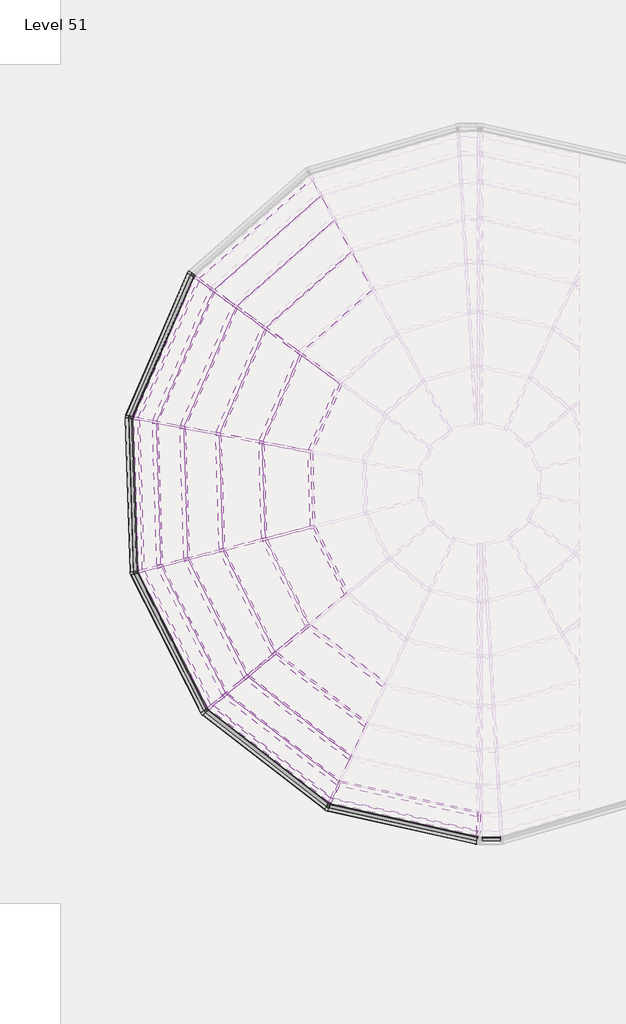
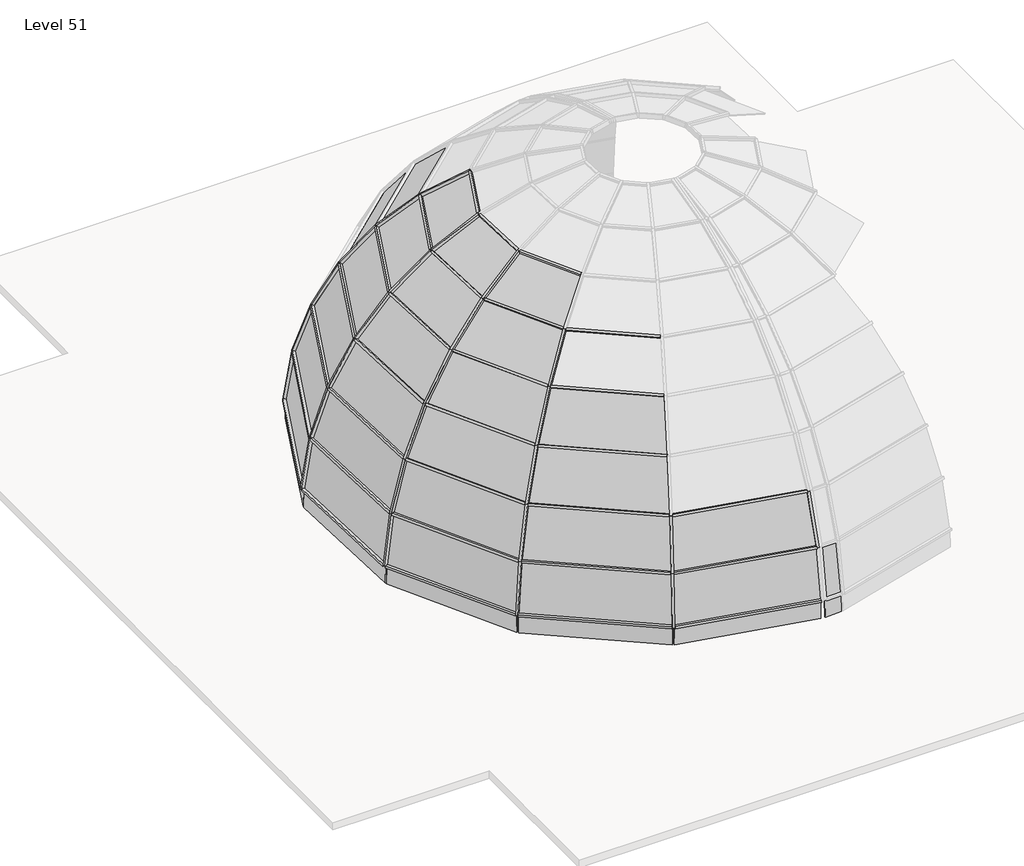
# One storey, part 1 of 5: 56 members, 35 plates.
"""IFC4 building model written with IfcOpenShell, lengths in millimetres."""

from ifc_helpers import new_model, si_unit, origin, place, context, project, spatial, transform, mapped, element, save
from components import member_d183bd50, member_19265363, member_bab2e2f0, member_1e4e3dac, member_4ad3c4be, member_f539bf5b, member_d9f9b3f1, member_bd7755a3, member_d21742c5, member_01029f2d, member_1612663b, member_5eaec6db, member_1ac3cc72, system_panel_glazed_0b4b9341, system_panel_glazed_891999a5, system_panel_glazed_cbcbf4f6, system_panel_glazed_e82b84bd, system_panel_glazed_248316cd, system_panel_glazed_11359935, system_panel_glazed_d27af8dd, system_panel_glazed_44e6ebe2, system_panel_glazed_fd8bc869, system_panel_glazed_955ccf0d, system_panel_glazed_4a3a9a20, system_panel_glazed_d1219a01

model = new_model("IFC4")

# Units and contexts
model_context = context("Model", 3, world=origin())
ifc_project = project(units=[si_unit("LENGTHUNIT", "METRE", prefix="MILLI")], contexts=[model_context])

# Site, building, storey
site = spatial("IfcSite", under=ifc_project)
building = spatial("IfcBuilding", under=site)
storey = spatial("IfcBuildingStorey", under=building, Name="Level 51", Elevation=152400.0)

# Members
placement = place(None, origin())
member_shape = member_d183bd50(model_context)
element("IfcMember", 1, ObjectType="Rectangular Mullion : 2.5\" x 5\" rectangular", at=placement, inside=storey, context=model_context, shape_type="MappedRepresentation", body=[
    mapped(member_shape, transform((-5304.9735037, -8481.2684402, 153025.5719668), x_axis=(-0.06246696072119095, -0.0317984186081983, -0.9975403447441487), y_axis=(-0.8889880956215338, -0.4525338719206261, 0.0700946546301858), z_axis=(-0.4536496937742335, 0.8911800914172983, 0.0))),
])
element("IfcMember", 2, ObjectType="Rectangular Mullion : 2.5\" x 5\" rectangular", at=placement, inside=storey, context=model_context, shape_type="MappedRepresentation", body=[
    mapped(member_shape, transform((-5441.325181, -4505.1878889, 153025.5719668), x_axis=(-0.07006123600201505, -0.002164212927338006, -0.9975403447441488), y_axis=(-0.9970647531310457, -0.030799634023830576, 0.07009465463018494), z_axis=(-0.0308755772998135, 0.9995232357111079, 0.0))),
])
element("IfcMember", 3, ObjectType="Rectangular Mullion : 2.5\" x 5\" rectangular", at=placement, inside=storey, context=model_context, shape_type="MappedRepresentation", body=[
    mapped(member_shape, transform((-3871.2078611, -849.7070817, 153025.5719668), x_axis=(-0.06431051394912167, 0.027882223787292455, -0.9975403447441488), y_axis=(-0.915224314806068, 0.39680120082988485, 0.0700946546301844), z_axis=(0.3977796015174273, 0.9174810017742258, 0.0))),
])
element("IfcMember", 4, ObjectType="Rectangular Mullion : 2.5\" x 5\" rectangular", at=placement, inside=storey, context=model_context, shape_type="MappedRepresentation", body=[
    mapped(member_shape, transform((-3488.1245773, -12020.6000592, 153025.5719668), x_axis=(-0.04297421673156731, -0.055375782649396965, -0.9975403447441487), y_axis=(-0.6115803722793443, -0.7880711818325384, 0.07009465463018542), z_axis=(-0.7900143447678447, 0.6130883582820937, 0.0))),
])
member_2_shape = member_19265363(model_context)
element("IfcMember", 5, ObjectType="Rectangular Mullion : 2.5\" x 5\" rectangular", at=placement, inside=storey, context=model_context, shape_type="MappedRepresentation", body=[
    mapped(member_2_shape, transform((-238.6274777, -14240.3846278, 154532.0243606), x_axis=(-0.052065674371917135, -0.232844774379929, -0.9711191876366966), y_axis=(-0.21191558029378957, -0.9477152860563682, 0.2385948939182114), z_axis=(-0.9759000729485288, 0.21821789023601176, 0.0))),
])
member_3_shape = member_bab2e2f0(model_context)
element("IfcMember", 6, ObjectType="Rectangular Mullion : 2.5\" x 5\" rectangular", at=placement, inside=storey, context=model_context, shape_type="MappedRepresentation", body=[
    mapped(member_3_shape, transform((-3310.3978785, -11873.663318, 154532.0243606), x_axis=(-0.14627975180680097, -0.188493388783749, -0.9711191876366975), y_axis=(-0.5953818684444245, -0.7671980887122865, 0.23859489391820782), z_axis=(-0.7900143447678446, 0.613088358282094, 0.0))),
])
element("IfcMember", 7, ObjectType="Rectangular Mullion : 2.5\" x 5\" rectangular", at=placement, inside=storey, context=model_context, shape_type="MappedRepresentation", body=[
    mapped(member_3_shape, transform((-5081.590197, -8424.0226229, 154532.0243606), x_axis=(-0.2126310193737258, -0.10823850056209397, -0.9711191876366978), y_axis=(-0.8654420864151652, -0.44054792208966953, 0.23859489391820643), z_axis=(-0.45364969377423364, 0.8911800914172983, 0.0))),
])
element("IfcMember", 8, ObjectType="Rectangular Mullion : 2.5\" x 5\" rectangular", at=placement, inside=storey, context=model_context, shape_type="MappedRepresentation", body=[
    mapped(member_3_shape, transform((-5214.8344675, -4548.5369607, 154532.0243606), x_axis=(-0.23848114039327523, -0.007366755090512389, -0.9711191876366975), y_axis=(-0.9706561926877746, -0.029983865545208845, 0.23859489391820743), z_axis=(-0.030875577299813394, 0.999523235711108, 0.0))),
])
element("IfcMember", 9, ObjectType="Rectangular Mullion : 2.5\" x 5\" rectangular", at=placement, inside=storey, context=model_context, shape_type="MappedRepresentation", body=[
    mapped(member_3_shape, transform((-3684.7508291, -985.3940765, 154532.0243606), x_axis=(-0.21890628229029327, 0.09490818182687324, -0.9711191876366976), y_axis=(-0.890983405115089, 0.3862914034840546, 0.2385948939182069), z_axis=(0.39777960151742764, 0.9174810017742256, 0.0))),
])
member_4_shape = member_1e4e3dac(model_context)
element("IfcMember", 10, ObjectType="Rectangular Mullion : 2.5\" x 5\" rectangular", at=placement, inside=storey, context=model_context, shape_type="MappedRepresentation", body=[
    mapped(member_4_shape, transform((-336.8448638, -14449.0243421, 153025.5719668), x_axis=(-0.015295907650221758, -0.06840537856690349, -0.9975403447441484), y_axis=(-0.2176811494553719, -0.9734996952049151, 0.07009465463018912), z_axis=(-0.9759000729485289, 0.21821789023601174, 0.0))),
])
member_5_shape = member_4ad3c4be(model_context)
element("IfcMember", 11, ObjectType="Rectangular Mullion : 2.5\" x 5\" rectangular", at=placement, inside=storey, context=model_context, shape_type="MappedRepresentation", body=[
    mapped(member_5_shape, transform((-2723.4172484, -1684.9679308, 157327.0596321), x_axis=(-0.5029371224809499, 0.21805152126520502, -0.8363658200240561), y_axis=(-0.7673497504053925, 0.3326892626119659, 0.5481717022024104), z_axis=(0.39777960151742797, 0.9174810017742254, 0.0))),
])
element("IfcMember", 12, ObjectType="Rectangular Mullion : 2.5\" x 5\" rectangular", at=placement, inside=storey, context=model_context, shape_type="MappedRepresentation", body=[
    mapped(member_5_shape, transform((-4047.0955719, -4772.0357364, 157327.0596321), x_axis=(-0.5479103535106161, -0.016925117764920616, -0.8363658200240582), y_axis=(-0.8359670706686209, -0.025823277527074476, 0.5481717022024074), z_axis=(-0.030875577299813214, 0.999523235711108, 0.0))),
])
element("IfcMember", 13, ObjectType="Rectangular Mullion : 2.5\" x 5\" rectangular", at=placement, inside=storey, context=model_context, shape_type="MappedRepresentation", body=[
    mapped(member_5_shape, transform((-2394.0760761, -11116.0881168, 157327.0596321), x_axis=(-0.33607768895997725, -0.433063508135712, -0.8363658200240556), y_axis=(-0.5127661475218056, -0.6607409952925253, 0.5481717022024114), z_axis=(-0.7900143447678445, 0.613088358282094, 0.0))),
])
element("IfcMember", 14, ObjectType="Rectangular Mullion : 2.5\" x 5\" rectangular", at=placement, inside=storey, context=model_context, shape_type="MappedRepresentation", body=[
    mapped(member_5_shape, transform((-3929.8724428, -8128.8751246, 157327.0596321), x_axis=(-0.4885197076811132, -0.2486779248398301, -0.8363658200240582), y_axis=(-0.7453525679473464, -0.37941709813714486, 0.5481717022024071), z_axis=(-0.45364969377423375, 0.8911800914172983, 0.0))),
])
member_6_shape = member_f539bf5b(model_context)
element("IfcMember", 15, ObjectType="Rectangular Mullion : 2.5\" x 5\" rectangular", at=placement, inside=storey, context=model_context, shape_type="MappedRepresentation", body=[
    mapped(member_6_shape, transform((-35.2087204, -13808.2693672, 155979.2538554), x_axis=(-0.08719349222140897, -0.38994115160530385, -0.9167023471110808), y_axis=(-0.2000408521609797, -0.8946098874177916, 0.3995707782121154), z_axis=(-0.975900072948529, 0.2182178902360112, 0.0))),
])
member_7_shape = member_d9f9b3f1(model_context)
element("IfcMember", 16, ObjectType="Rectangular Mullion : 2.5\" x 5\" rectangular", at=placement, inside=storey, context=model_context, shape_type="MappedRepresentation", body=[
    mapped(member_7_shape, transform((-2942.306794, -11569.341543, 155979.2538554), x_axis=(-0.2449721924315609, -0.3156666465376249, -0.9167023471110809), y_axis=(-0.5620195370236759, -0.724208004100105, 0.3995707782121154), z_axis=(-0.7900143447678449, 0.6130883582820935, 0.0))),
])
element("IfcMember", 17, ObjectType="Rectangular Mullion : 2.5\" x 5\" rectangular", at=placement, inside=storey, context=model_context, shape_type="MappedRepresentation", body=[
    mapped(member_7_shape, transform((-4618.9393727, -8305.4603859, 155979.2538554), x_axis=(-0.3560895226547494, -0.18126516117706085, -0.9167023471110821), y_axis=(-0.8169468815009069, -0.41586173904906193, 0.39957077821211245), z_axis=(-0.4536496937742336, 0.8911800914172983, 0.0))),
])
element("IfcMember", 18, ObjectType="Rectangular Mullion : 2.5\" x 5\" rectangular", at=placement, inside=storey, context=model_context, shape_type="MappedRepresentation", body=[
    mapped(member_7_shape, transform((-4745.74787, -4638.3175449, 155979.2538554), x_axis=(-0.3993802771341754, -0.012336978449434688, -0.9167023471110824), y_axis=(-0.9162652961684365, -0.028303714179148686, 0.39957077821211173), z_axis=(-0.03087557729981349, 0.9995232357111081, 0.0))),
])
element("IfcMember", 19, ObjectType="Rectangular Mullion : 2.5\" x 5\" rectangular", at=placement, inside=storey, context=model_context, shape_type="MappedRepresentation", body=[
    mapped(member_7_shape, transform((-3298.5782865, -1266.4164182, 155979.2538554), x_axis=(-0.36659859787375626, 0.1589411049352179, -0.9167023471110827), y_axis=(-0.8410569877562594, 0.36464549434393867, 0.39957077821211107), z_axis=(0.3977796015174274, 0.9174810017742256, 0.0))),
])
member_8_shape = member_bd7755a3(model_context)
element("IfcMember", 20, ObjectType="Rectangular Mullion : 2.5\" x 5\" rectangular", at=placement, inside=storey, context=model_context, shape_type="MappedRepresentation", body=[
    mapped(member_8_shape, transform((-1074.8423509, -2884.6554463, 159578.4455769), x_axis=(-0.726935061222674, 0.31516722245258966, -0.6101106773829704), y_axis=(-0.559764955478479, 0.24268958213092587, 0.7923162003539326), z_axis=(0.3977796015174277, 0.9174810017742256, 0.0))),
])
element("IfcMember", 21, ObjectType="Rectangular Mullion : 2.5\" x 5\" rectangular", at=placement, inside=storey, context=model_context, shape_type="MappedRepresentation", body=[
    mapped(member_8_shape, transform((-2044.5596482, -5155.310053, 159578.4455769), x_axis=(-0.7919384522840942, -0.024463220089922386, -0.6101106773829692), y_axis=(-0.6098197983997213, -0.018837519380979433, 0.7923162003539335), z_axis=(-0.030875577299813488, 0.999523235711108, 0.0))),
])
element("IfcMember", 22, ObjectType="Rectangular Mullion : 2.5\" x 5\" rectangular", at=placement, inside=storey, context=model_context, shape_type="MappedRepresentation", body=[
    mapped(member_8_shape, transform((-1954.8109068, -7622.7316105, 159578.4455769), x_axis=(-0.7060964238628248, -0.3594340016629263, -0.6101106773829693), y_axis=(-0.5437184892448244, -0.2767765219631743, 0.7923162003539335), z_axis=(-0.45364969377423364, 0.8911800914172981, 0.0))),
])
element("IfcMember", 23, ObjectType="Rectangular Mullion : 2.5\" x 5\" rectangular", at=placement, inside=storey, context=model_context, shape_type="MappedRepresentation", body=[
    mapped(member_8_shape, transform((-822.6911253, -9816.9350604, 159578.4455769), x_axis=(-0.48575983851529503, -0.6259411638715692, -0.6101106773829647), y_axis=(-0.3740517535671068, -0.4819961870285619, 0.792316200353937), z_axis=(-0.7900143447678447, 0.6130883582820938, 0.0))),
])
member_9_shape = member_d21742c5(model_context)
element("IfcMember", 24, ObjectType="Rectangular Mullion : 2.5\" x 5\" rectangular", at=placement, inside=storey, context=model_context, shape_type="MappedRepresentation", body=[
    mapped(member_9_shape, transform((-47.2222387, -3632.4667961, 160419.4872466), x_axis=(-0.809110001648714, 0.35079467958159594, -0.47147014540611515), y_axis=(-0.4325649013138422, 0.18754120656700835, 0.8818820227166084), z_axis=(0.397779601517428, 0.9174810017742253, 0.0))),
])
element("IfcMember", 25, ObjectType="Rectangular Mullion : 2.5\" x 5\" rectangular", at=placement, inside=storey, context=model_context, shape_type="MappedRepresentation", body=[
    mapped(member_9_shape, transform((-796.3020205, -5394.2196693, 160419.4872466), x_axis=(-0.8814615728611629, -0.02722861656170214, -0.47147014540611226), y_axis=(-0.471245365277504, -0.014556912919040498, 0.8818820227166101), z_axis=(-0.03087557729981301, 0.9995232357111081, 0.0))),
])
element("IfcMember", 26, ObjectType="Rectangular Mullion : 2.5\" x 5\" rectangular", at=placement, inside=storey, context=model_context, shape_type="MappedRepresentation", body=[
    mapped(member_9_shape, transform((-723.6791213, -7307.2328998, 160419.4872466), x_axis=(-0.7859157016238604, -0.4000655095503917, -0.4714701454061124), y_axis=(-0.42016480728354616, -0.21388228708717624, 0.88188202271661), z_axis=(-0.45364969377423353, 0.8911800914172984, 0.0))),
])
member_10_shape = member_01029f2d(model_context)
element("IfcMember", 27, ObjectType="Rectangular Mullion : 2.5\" x 5\" rectangular", at=placement, inside=storey, context=model_context, shape_type="MappedRepresentation", body=[
    mapped(member_10_shape, transform((-1975.2444102, -2229.4221832, 158538.0026411), x_axis=(-0.6240863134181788, 0.27057650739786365, -0.7330106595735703), y_axis=(-0.6725233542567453, 0.29157668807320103, 0.6802171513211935), z_axis=(0.3977796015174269, 0.9174810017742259, 0.0))),
])
element("IfcMember", 28, ObjectType="Rectangular Mullion : 2.5\" x 5\" rectangular", at=placement, inside=storey, context=model_context, shape_type="MappedRepresentation", body=[
    mapped(member_10_shape, transform((-1680.9343558, -10526.4934124, 158538.0026411), x_axis=(-0.41703321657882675, -0.5373813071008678, -0.7330106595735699), y_axis=(-0.44940030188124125, -0.5790889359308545, 0.6802171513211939), z_axis=(-0.7900143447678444, 0.6130883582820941, 0.0))),
])
element("IfcMember", 29, ObjectType="Rectangular Mullion : 2.5\" x 5\" rectangular", at=placement, inside=storey, context=model_context, shape_type="MappedRepresentation", body=[
    mapped(member_10_shape, transform((-3033.5301552, -7899.1719852, 158538.0026411), x_axis=(-0.6061959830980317, -0.3085803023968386, -0.7330106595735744), y_axis=(-0.6532445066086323, -0.33253006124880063, 0.6802171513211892), z_axis=(-0.45364969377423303, 0.8911800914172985, 0.0))),
])
element("IfcMember", 30, ObjectType="Rectangular Mullion : 2.5\" x 5\" rectangular", at=placement, inside=storey, context=model_context, shape_type="MappedRepresentation", body=[
    mapped(member_10_shape, transform((-3138.2845813, -4945.977141, 158538.0026411), x_axis=(-0.6798928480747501, -0.021002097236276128, -0.7330106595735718), y_axis=(-0.73266118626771, -0.022632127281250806, 0.680217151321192), z_axis=(-0.030875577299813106, 0.9995232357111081, 0.0))),
])
member_11_shape = member_1612663b(model_context)
element("IfcMember", 31, ObjectType="Rectangular Mullion : 2.5\" x 5\" rectangular", at=placement, inside=storey, context=model_context, shape_type="MappedRepresentation", body=[
    mapped(member_11_shape, transform((-847.7740807, -9797.4695051, 159578.4455769), x_axis=(-0.6371882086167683, 0.7707082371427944, 0.0), y_axis=(-0.526166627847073, -0.4350117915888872, 0.730693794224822), z_axis=(0.5631517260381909, 0.4655894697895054, 0.6827053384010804))),
])
element("IfcMember", 32, ObjectType="Rectangular Mullion : 2.5\" x 5\" rectangular", at=placement, inside=storey, context=model_context, shape_type="MappedRepresentation", body=[
    mapped(member_11_shape, transform((-1706.0173112, -10507.027857, 158538.0026411), x_axis=(-0.6371882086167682, 0.7707082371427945, 0.0), y_axis=(-0.6123909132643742, -0.5062982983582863, 0.6071568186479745), z_axis=(0.46794076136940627, 0.38687316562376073, 0.7945820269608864))),
])
element("IfcMember", 33, ObjectType="Rectangular Mullion : 2.5\" x 5\" rectangular", at=placement, inside=storey, context=model_context, shape_type="MappedRepresentation", body=[
    mapped(member_11_shape, transform((-2419.1590315, -11096.6225614, 157327.0596321), x_axis=(-0.6371882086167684, 0.7707082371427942, 0.0), y_axis=(-0.6816043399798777, -0.5635209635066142, 0.466754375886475), z_axis=(0.35973144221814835, 0.29741038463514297, 0.8843869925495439))),
])
element("IfcMember", 34, ObjectType="Rectangular Mullion : 2.5\" x 5\" rectangular", at=placement, inside=storey, context=model_context, shape_type="MappedRepresentation", body=[
    mapped(member_11_shape, transform((-2967.3897495, -11549.8759876, 155979.2538554), x_axis=(-0.6371882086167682, 0.7707082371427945, 0.0), y_axis=(-0.7318843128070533, -0.6050902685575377, 0.31338653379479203), z_axis=(0.24152958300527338, 0.19968620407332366, 0.9496256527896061))),
])
element("IfcMember", 35, ObjectType="Rectangular Mullion : 2.5\" x 5\" rectangular", at=placement, inside=storey, context=model_context, shape_type="MappedRepresentation", body=[
    mapped(member_11_shape, transform((-738.0824991, -7278.9379319, 160419.4872466), x_axis=(-0.24824532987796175, 0.9686971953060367, 0.0), y_axis=(-0.5345897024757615, -0.13699781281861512, 0.8339337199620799), z_axis=(0.8078292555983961, 0.2070201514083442, 0.5518646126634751))),
])
element("IfcMember", 36, ObjectType="Rectangular Mullion : 2.5\" x 5\" rectangular", at=placement, inside=storey, context=model_context, shape_type="MappedRepresentation", body=[
    mapped(member_11_shape, transform((-1969.2142846, -7594.4366426, 159578.4455769), x_axis=(-0.248245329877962, 0.9686971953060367, 0.0), y_axis=(-0.6613347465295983, -0.16947841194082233, 0.73069379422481), z_axis=(0.707821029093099, 0.18139132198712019, 0.6827053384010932))),
])
element("IfcMember", 37, ObjectType="Rectangular Mullion : 2.5\" x 5\" rectangular", at=placement, inside=storey, context=model_context, shape_type="MappedRepresentation", body=[
    mapped(member_11_shape, transform((-3047.933533, -7870.8770173, 158538.0026411), x_axis=(-0.24824532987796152, 0.9686971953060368, 0.0), y_axis=(-0.7697093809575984, -0.1972512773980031, 0.6071568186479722), z_axis=(0.5881511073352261, 0.150723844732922, 0.7945820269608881))),
])
element("IfcMember", 38, ObjectType="Rectangular Mullion : 2.5\" x 5\" rectangular", at=placement, inside=storey, context=model_context, shape_type="MappedRepresentation", body=[
    mapped(member_11_shape, transform((-3944.2758205, -8100.5801567, 157327.0596321), x_axis=(-0.24824532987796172, 0.9686971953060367, 0.0), y_axis=(-0.8567031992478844, -0.2195449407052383, 0.46675437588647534), z_axis=(0.45214365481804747, 0.1158695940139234, 0.8843869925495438))),
])
element("IfcMember", 39, ObjectType="Rectangular Mullion : 2.5\" x 5\" rectangular", at=placement, inside=storey, context=model_context, shape_type="MappedRepresentation", body=[
    mapped(member_11_shape, transform((-4633.3427505, -8277.165418, 155979.2538554), x_axis=(-0.24824532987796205, 0.9686971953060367, 0.0), y_axis=(-0.9198997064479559, -0.23574013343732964, 0.3133865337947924), z_axis=(0.303576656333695, 0.07779674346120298, 0.9496256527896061))),
])
element("IfcMember", 40, ObjectType="Rectangular Mullion : 2.5\" x 5\" rectangular", at=placement, inside=storey, context=model_context, shape_type="MappedRepresentation", body=[
    mapped(member_11_shape, transform((-797.2823201, -5362.4848066, 160419.4872466), x_axis=(0.1879823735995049, 0.9821724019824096, 0.0), y_axis=(-0.5420261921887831, 0.10374081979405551, 0.8339337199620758), z_axis=(0.8190666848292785, -0.1567648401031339, 0.5518646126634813))),
])
element("IfcMember", 41, ObjectType="Rectangular Mullion : 2.5\" x 5\" rectangular", at=placement, inside=storey, context=model_context, shape_type="MappedRepresentation", body=[
    mapped(member_11_shape, transform((-2045.5399477, -5123.5751902, 159578.4455769), x_axis=(0.18798237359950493, 0.9821724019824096, 0.0), y_axis=(-0.6705343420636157, 0.12833656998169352, 0.7306937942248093), z_axis=(0.717667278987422, -0.13735755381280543, 0.6827053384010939))),
])
element("IfcMember", 42, ObjectType="Rectangular Mullion : 2.5\" x 5\" rectangular", at=placement, inside=storey, context=model_context, shape_type="MappedRepresentation", body=[
    mapped(member_11_shape, transform((-3139.2648809, -4914.2422782, 158538.0026411), x_axis=(0.18798237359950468, 0.9821724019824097, 0.0), y_axis=(-0.7804165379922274, 0.1493674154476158, 0.6071568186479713), z_axis=(0.596332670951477, -0.11413477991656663, 0.7945820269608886))),
])
element("IfcMember", 43, ObjectType="Rectangular Mullion : 2.5\" x 5\" rectangular", at=placement, inside=storey, context=model_context, shape_type="MappedRepresentation", body=[
    mapped(member_11_shape, transform((-4048.0758714, -4740.3008736, 157327.0596321), x_axis=(0.187982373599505, 0.9821724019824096, 0.0), y_axis=(-0.868620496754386, 0.1662491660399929, 0.4667543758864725), z_axis=(0.4584332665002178, -0.08774159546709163, 0.8843869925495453))),
])
element("IfcMember", 44, ObjectType="Rectangular Mullion : 2.5\" x 5\" rectangular", at=placement, inside=storey, context=model_context, shape_type="MappedRepresentation", body=[
    mapped(member_11_shape, transform((-4746.7281696, -4606.5826821, 155979.2538554), x_axis=(0.18798237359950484, 0.9821724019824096, 0.0), y_axis=(-0.9326961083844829, 0.17851288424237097, 0.31338653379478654), z_axis=(0.3077996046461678, -0.058911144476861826, 0.949625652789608))),
])
element("IfcMember", 45, ObjectType="Rectangular Mullion : 2.5\" x 5\" rectangular", at=placement, inside=storey, context=model_context, shape_type="MappedRepresentation", body=[
    mapped(member_11_shape, transform((-66.1935478, -13801.3409492, 155979.2538554), x_axis=(-0.9047619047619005, 0.4259177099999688, 0.0), y_axis=(-0.4044623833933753, -0.859185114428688, 0.3133865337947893), z_axis=(0.13347687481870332, 0.28354019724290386, 0.9496256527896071))),
])
element("IfcMember", 46, ObjectType="Rectangular Mullion : 2.5\" x 5\" rectangular", at=placement, inside=storey, context=model_context, shape_type="MappedRepresentation", body=[
    mapped(member_11_shape, transform((-34.5927364, -3603.3367743, 160419.4872466), x_axis=(0.5884039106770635, 0.8085671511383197, 0.0), y_axis=(-0.44621959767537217, 0.3247192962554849, 0.8339337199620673), z_axis=(0.674291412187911, -0.4906898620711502, 0.5518646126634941))),
])
element("IfcMember", 47, ObjectType="Rectangular Mullion : 2.5\" x 5\" rectangular", at=placement, inside=storey, context=model_context, shape_type="MappedRepresentation", body=[
    mapped(member_11_shape, transform((-1062.2128486, -2855.5254245, 159578.4455769), x_axis=(0.5884039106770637, 0.8085671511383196, 0.0), y_axis=(-0.5520131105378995, 0.40170649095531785, 0.7306937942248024), z_axis=(0.5908149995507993, -0.4299430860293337, 0.6827053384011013))),
])
element("IfcMember", 48, ObjectType="Rectangular Mullion : 2.5\" x 5\" rectangular", at=placement, inside=storey, context=model_context, shape_type="MappedRepresentation", body=[
    mapped(member_11_shape, transform((-1962.6149079, -2200.2921614, 158538.0026411), x_axis=(0.5884039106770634, 0.8085671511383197, 0.0), y_axis=(-0.6424729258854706, 0.4675351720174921, 0.6071568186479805), z_axis=(0.49092705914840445, -0.3572534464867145, 0.7945820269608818))),
])
element("IfcMember", 49, ObjectType="Rectangular Mullion : 2.5\" x 5\" rectangular", at=placement, inside=storey, context=model_context, shape_type="MappedRepresentation", body=[
    mapped(member_11_shape, transform((-2710.787746, -1655.837909, 157327.0596321), x_axis=(0.5884039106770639, 0.8085671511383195, 0.0), y_axis=(-0.7150862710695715, 0.5203767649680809, 0.46675437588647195), z_axis=(0.3774022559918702, -0.27464010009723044, 0.8843869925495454))),
])
element("IfcMember", 50, ObjectType="Rectangular Mullion : 2.5\" x 5\" rectangular", at=placement, inside=storey, context=model_context, shape_type="MappedRepresentation", body=[
    mapped(member_11_shape, transform((-3285.9487841, -1237.2863964, 155979.2538554), x_axis=(0.5884039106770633, 0.8085671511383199, 0.0), y_axis=(-0.7678361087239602, 0.5587634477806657, 0.3133865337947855), z_axis=(0.25339405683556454, -0.18439786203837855, 0.9496256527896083))),
])
member_12_shape = member_5eaec6db(model_context)
element("IfcMember", 51, ObjectType="Rectangular Mullion : 2.5\" x 5\" rectangular", at=placement, inside=storey, context=model_context, shape_type="MappedRepresentation", body=[
    mapped(member_12_shape, transform((-3335.480834, -11854.1977626, 154532.0243606), x_axis=(-0.6371882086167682, 0.7707082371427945, 0.0), y_axis=(-0.7618341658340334, -0.6298515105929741, 0.15131351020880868), z_axis=(0.11661856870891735, 0.09641518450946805, 0.9884858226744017))),
])
element("IfcMember", 52, ObjectType="Rectangular Mullion : 2.5\" x 5\" rectangular", at=placement, inside=storey, context=model_context, shape_type="MappedRepresentation", body=[
    mapped(member_12_shape, transform((-5095.9935747, -8395.727655, 154532.0243606), x_axis=(-0.24824532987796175, 0.9686971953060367, 0.0), y_axis=(-0.9575434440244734, -0.2453869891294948, 0.15131351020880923), z_axis=(0.14657697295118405, 0.037562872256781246, 0.9884858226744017))),
])
element("IfcMember", 53, ObjectType="Rectangular Mullion : 2.5\" x 5\" rectangular", at=placement, inside=storey, context=model_context, shape_type="MappedRepresentation", body=[
    mapped(member_12_shape, transform((-269.612305, -14233.4562098, 154532.0243606), x_axis=(-0.9047619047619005, 0.42591770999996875, 0.0), y_axis=(-0.42101361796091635, -0.8943443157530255, 0.15131351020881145), z_axis=(0.0644471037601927, 0.13690269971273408, 0.9884858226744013))),
])
element("IfcMember", 54, ObjectType="Rectangular Mullion : 2.5\" x 5\" rectangular", at=placement, inside=storey, context=model_context, shape_type="MappedRepresentation", body=[
    mapped(member_12_shape, transform((-5215.8147671, -4516.802098, 154532.0243606), x_axis=(0.18798237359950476, 0.9821724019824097, 0.0), y_axis=(-0.9708634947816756, 0.18581791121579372, 0.15131351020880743), z_axis=(0.14861595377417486, -0.028444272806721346, 0.9884858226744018))),
])
element("IfcMember", 55, ObjectType="Rectangular Mullion : 2.5\" x 5\" rectangular", at=placement, inside=storey, context=model_context, shape_type="MappedRepresentation", body=[
    mapped(member_12_shape, transform((-3672.1213268, -956.2640547, 154532.0243606), x_axis=(0.5884039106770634, 0.8085671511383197, 0.0), y_axis=(-0.7992571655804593, 0.5816289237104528, 0.1513135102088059), z_axis=(0.12234713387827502, -0.0890334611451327, 0.9884858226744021))),
])
member_13_shape = member_1ac3cc72(model_context)
element("IfcMember", 56, ObjectType="Rectangular Mullion : 2.5\" x 5\" rectangular", at=placement, inside=storey, context=model_context, shape_type="MappedRepresentation", body=[
    mapped(member_13_shape, transform((3517.6370544, -15080.3109113, 154532.0243606), x_axis=(0.9781901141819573, -0.19724824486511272, 0.06509401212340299), y_axis=(-0.2077115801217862, -0.9289144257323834, 0.3065516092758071), z_axis=(0.0, -0.31338653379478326, -0.9496256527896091))),
])

# Plates
system_panel_glazed_shape = system_panel_glazed_0b4b9341(model_context)
element("IfcPlate", 57, ObjectType="System Panel : Glazed", at=placement, inside=storey, context=model_context, shape_type="MappedRepresentation", body=[
    mapped(system_panel_glazed_shape, transform((-326.5944607, -8145.218736, 160401.668006), x_axis=(-0.45364969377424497, 0.8911800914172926, 0.0), y_axis=(0.5001622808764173, 0.25460450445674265, -0.8276558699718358), z_axis=(-0.7375904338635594, -0.37546583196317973, -0.5612359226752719))),
])
element("IfcPlate", 58, ObjectType="System Panel : Glazed", at=placement, inside=storey, context=model_context, shape_type="MappedRepresentation", body=[
    mapped(system_panel_glazed_shape, transform((-793.947955, -6321.5227199, 160401.668006), x_axis=(-0.030875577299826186, 0.9995232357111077, 0.0), y_axis=(0.5609683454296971, 0.017328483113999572, -0.8276558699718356), z_axis=(-0.8272612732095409, -0.025554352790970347, -0.5612359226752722))),
])
element("IfcPlate", 59, ObjectType="System Panel : Glazed", at=placement, inside=storey, context=model_context, shape_type="MappedRepresentation", body=[
    mapped(system_panel_glazed_shape, transform((-440.0471618, -4472.4579087, 160401.668006), x_axis=(0.39777960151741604, 0.9174810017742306, 0.0), y_axis=(0.5149232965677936, -0.22324820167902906, -0.8276558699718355), z_axis=(-0.759358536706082, 0.32922462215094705, -0.5612359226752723))),
])
system_panel_glazed_2_shape = system_panel_glazed_891999a5(model_context)
element("IfcPlate", 60, ObjectType="System Panel : Glazed", at=placement, inside=storey, context=model_context, shape_type="MappedRepresentation", body=[
    mapped(system_panel_glazed_2_shape, transform((-1428.9323626, -8706.3570025, 159556.4887654), x_axis=(-0.4536496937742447, 0.8911800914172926, 0.0), y_axis=(0.616298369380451, 0.31372285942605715, -0.7223256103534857), z_axis=(-0.6437222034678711, -0.3276827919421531, -0.6915531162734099))),
])
element("IfcPlate", 61, ObjectType="System Panel : Glazed", at=placement, inside=storey, context=model_context, shape_type="MappedRepresentation", body=[
    mapped(system_panel_glazed_2_shape, transform((-2030.3000203, -6359.7140119, 159556.4887654), x_axis=(-0.030875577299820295, 0.9995232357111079, 0.0), y_axis=(0.6912234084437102, 0.021352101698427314, -0.7223256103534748), z_axis=(-0.7219812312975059, -0.02230222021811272, -0.6915531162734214))),
])
element("IfcPlate", 62, ObjectType="System Panel : Glazed", at=placement, inside=storey, context=model_context, shape_type="MappedRepresentation", body=[
    mapped(system_panel_glazed_2_shape, transform((-1574.9177589, -3980.4276944, 159556.4887654), x_axis=(0.39777960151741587, 0.9174810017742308, 0.0), y_axis=(0.6344868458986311, -0.27508572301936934, -0.7223256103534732), z_axis=(-0.6627200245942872, 0.28732639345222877, -0.691553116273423))),
])
element("IfcPlate", 63, ObjectType="System Panel : Glazed", at=placement, inside=storey, context=model_context, shape_type="MappedRepresentation", body=[
    mapped(system_panel_glazed_2_shape, transform((-149.525057, -2021.6954437, 159556.4887654), x_axis=(0.7506672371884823, 0.6606804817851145, 0.0), y_axis=(0.4568956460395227, -0.5191262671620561, -0.7223256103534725), z_axis=(-0.4772264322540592, 0.5422261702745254, -0.6915531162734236))),
])
system_panel_glazed_3_shape = system_panel_glazed_cbcbf4f6(model_context)
element("IfcPlate", 64, ObjectType="System Panel : Glazed", at=placement, inside=storey, context=model_context, shape_type="MappedRepresentation", body=[
    mapped(system_panel_glazed_3_shape, transform((-549.204711, -11428.7937961, 158512.550274), x_axis=(-0.7900143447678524, 0.6130883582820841, 0.0), y_axis=(0.4914818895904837, 0.6333144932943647, -0.5977945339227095), z_axis=(-0.3665008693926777, -0.47226625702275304, -0.8016493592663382))),
])
element("IfcPlate", 65, ObjectType="System Panel : Glazed", at=placement, inside=storey, context=model_context, shape_type="MappedRepresentation", body=[
    mapped(system_panel_glazed_3_shape, transform((-2393.8899992, -9197.5626977, 158512.550274), x_axis=(-0.45364969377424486, 0.8911800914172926, 0.0), y_axis=(0.7144139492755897, 0.3636679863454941, -0.5977945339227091), z_axis=(-0.5327425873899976, -0.27118930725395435, -0.8016493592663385))),
])
element("IfcPlate", 66, ObjectType="System Panel : Glazed", at=placement, inside=storey, context=model_context, shape_type="MappedRepresentation", body=[
    mapped(system_panel_glazed_3_shape, transform((-3112.5701344, -6393.1456655, 158512.550274), x_axis=(-0.030875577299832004, 0.9995232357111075, 0.0), y_axis=(0.8012671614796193, 0.02475138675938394, -0.5977945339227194), z_axis=(-0.5975095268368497, -0.018457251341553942, -0.801649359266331))),
])
element("IfcPlate", 67, ObjectType="System Panel : Glazed", at=placement, inside=storey, context=model_context, shape_type="MappedRepresentation", body=[
    mapped(system_panel_glazed_3_shape, transform((-2568.3536622, -3549.7173723, 158512.550274), x_axis=(0.3977796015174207, 0.9174810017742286, 0.0), y_axis=(0.7354980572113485, -0.3188797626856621, -0.5977945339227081), z_axis=(-0.5484651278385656, 0.23779047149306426, -0.8016493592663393))),
])
element("IfcPlate", 68, ObjectType="System Panel : Glazed", at=placement, inside=storey, context=model_context, shape_type="MappedRepresentation", body=[
    mapped(system_panel_glazed_3_shape, transform((-864.900863, -1208.8832073, 158512.550274), x_axis=(0.7506672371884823, 0.6606804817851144, 0.0), y_axis=(0.5296340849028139, -0.6017719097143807, -0.5977945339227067), z_axis=(-0.39495118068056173, 0.44874477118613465, -0.8016493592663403))),
])
system_panel_glazed_4_shape = system_panel_glazed_e82b84bd(model_context)
element("IfcPlate", 69, ObjectType="System Panel : Glazed", at=placement, inside=storey, context=model_context, shape_type="MappedRepresentation", body=[
    mapped(system_panel_glazed_4_shape, transform((-1100.1045097, -12138.6731105, 157298.8335509), x_axis=(-0.7900143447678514, 0.6130883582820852, 0.0), y_axis=(0.5450419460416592, 0.7023309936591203, -0.45788694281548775), z_axis=(-0.2807251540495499, -0.3617372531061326, -0.8890104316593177))),
])
element("IfcPlate", 70, ObjectType="System Panel : Glazed", at=placement, inside=storey, context=model_context, shape_type="MappedRepresentation", body=[
    mapped(system_panel_glazed_4_shape, transform((-3194.6733224, -9605.1964777, 157298.8335509), x_axis=(-0.4536496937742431, 0.8911800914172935, 0.0), y_axis=(0.7922683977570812, 0.4032993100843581, -0.4578869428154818), z_axis=(-0.4080597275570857, -0.2077202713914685, -0.8890104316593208))),
])
element("IfcPlate", 71, ObjectType="System Panel : Glazed", at=placement, inside=storey, context=model_context, shape_type="MappedRepresentation", body=[
    mapped(system_panel_glazed_4_shape, transform((-4010.7068253, -6420.8893816, 157298.8335509), x_axis=(-0.030875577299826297, 0.9995232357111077, 0.0), y_axis=(0.8885865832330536, 0.027448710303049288, -0.4578869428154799), z_axis=(-0.45766863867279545, -0.01413752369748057, -0.8890104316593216))),
])
element("IfcPlate", 72, ObjectType="System Panel : Glazed", at=placement, inside=storey, context=model_context, shape_type="MappedRepresentation", body=[
    mapped(system_panel_glazed_4_shape, transform((-3392.7700654, -3192.2865071, 157298.8335509), x_axis=(0.39777960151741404, 0.9174810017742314, 0.0), y_axis=(0.815650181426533, -0.3536302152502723, -0.45788694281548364), z_axis=(-0.42010257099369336, 0.18213808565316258, -0.8890104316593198))),
])
element("IfcPlate", 73, ObjectType="System Panel : Glazed", at=placement, inside=storey, context=model_context, shape_type="MappedRepresentation", body=[
    mapped(system_panel_glazed_4_shape, transform((-1458.5652826, -534.3598303, 157298.8335509), x_axis=(0.7506672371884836, 0.660680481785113, 0.0), y_axis=(0.5873518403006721, -0.6673510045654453, -0.45788694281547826), z_axis=(-0.30251696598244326, 0.3437207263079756, -0.8890104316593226))),
])
system_panel_glazed_5_shape = system_panel_glazed_248316cd(model_context)
element("IfcPlate", 74, ObjectType="System Panel : Glazed", at=placement, inside=storey, context=model_context, shape_type="MappedRepresentation", body=[
    mapped(system_panel_glazed_5_shape, transform((1708.0690675, -14208.0515021, 155949.0324897), x_axis=(-0.9759000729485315, 0.21821789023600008, 0.0), y_axis=(0.20771158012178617, 0.928914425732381, -0.30655160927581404), z_axis=(-0.06689504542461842, -0.29916373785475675, -0.9518540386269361))),
])
system_panel_glazed_6_shape = system_panel_glazed_11359935(model_context)
element("IfcPlate", 75, ObjectType="System Panel : Glazed", at=placement, inside=storey, context=model_context, shape_type="MappedRepresentation", body=[
    mapped(system_panel_glazed_6_shape, transform((-1522.758846, -12683.2976887, 155949.0324897), x_axis=(-0.7900143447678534, 0.6130883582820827, 0.0), y_axis=(0.5835706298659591, 0.7519783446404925, -0.3065516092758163), z_axis=(-0.1879432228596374, -0.2421801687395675, -0.9518540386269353))),
])
element("IfcPlate", 76, ObjectType="System Panel : Glazed", at=placement, inside=storey, context=model_context, shape_type="MappedRepresentation", body=[
    mapped(system_panel_glazed_6_shape, transform((-3809.0401179, -9917.9360814, 155949.0324897), x_axis=(-0.4536496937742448, 0.8911800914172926, 0.0), y_axis=(0.8482733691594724, 0.4318082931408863, -0.30655160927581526), z_axis=(-0.2731926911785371, -0.1390670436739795, -0.9518540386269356))),
])
element("IfcPlate", 77, ObjectType="System Panel : Glazed", at=placement, inside=storey, context=model_context, shape_type="MappedRepresentation", body=[
    mapped(system_panel_glazed_6_shape, transform((-4699.7638333, -6442.1745625, 155949.0324897), x_axis=(-0.03087557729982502, 0.9995232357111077, 0.0), y_axis=(0.9514002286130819, 0.029389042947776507, -0.30655160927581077), z_axis=(-0.3064054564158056, -0.009464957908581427, -0.9518540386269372))),
])
element("IfcPlate", 78, ObjectType="System Panel : Glazed", at=placement, inside=storey, context=model_context, shape_type="MappedRepresentation", body=[
    mapped(system_panel_glazed_6_shape, transform((-4025.2683319, -2918.062945, 155949.0324897), x_axis=(0.39777960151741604, 0.9174810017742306, 0.0), y_axis=(0.8733079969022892, -0.37862812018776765, -0.30655160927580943), z_axis=(-0.281255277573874, 0.12193997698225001, -0.9518540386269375))),
])
element("IfcPlate", 79, ObjectType="System Panel : Glazed", at=placement, inside=storey, context=model_context, shape_type="MappedRepresentation", body=[
    mapped(system_panel_glazed_6_shape, transform((-1914.0289475, -16.8605847, 155949.0324897), x_axis=(0.7506672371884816, 0.6606804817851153, 0.0), y_axis=(0.6288713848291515, -0.714525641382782, -0.30655160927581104), z_axis=(-0.20253266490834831, 0.23011824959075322, -0.951854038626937))),
])
system_panel_glazed_7_shape = system_panel_glazed_d27af8dd(model_context)
element("IfcPlate", 80, ObjectType="System Panel : Glazed", at=placement, inside=storey, context=model_context, shape_type="MappedRepresentation", body=[
    mapped(system_panel_glazed_7_shape, transform((1607.4878527, -14657.9953901, 154500.6228129), x_axis=(-0.9759000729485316, 0.21821789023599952, 0.0), y_axis=(0.21582297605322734, 0.9651896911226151, -0.14774743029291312), z_axis=(-0.032241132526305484, -0.14418672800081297, -0.9890251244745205))),
])
system_panel_glazed_8_shape = system_panel_glazed_44e6ebe2(model_context)
element("IfcPlate", 81, ObjectType="System Panel : Glazed", at=placement, inside=storey, context=model_context, shape_type="MappedRepresentation", body=[
    mapped(system_panel_glazed_8_shape, transform((-1805.4225553, -13047.5329284, 154500.6228129), x_axis=(-0.7900143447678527, 0.6130883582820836, 0.0), y_axis=(0.6063597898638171, 0.7813440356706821, -0.1477474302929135), z_axis=(-0.09058222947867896, -0.11672258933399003, -0.9890251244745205))),
])
element("IfcPlate", 82, ObjectType="System Panel : Glazed", at=placement, inside=storey, context=model_context, shape_type="MappedRepresentation", body=[
    mapped(system_panel_glazed_8_shape, transform((-4219.9177132, -10127.0907709, 154500.6228129), x_axis=(-0.4536496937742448, 0.8911800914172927, 0.0), y_axis=(0.8813995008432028, 0.4486709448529, -0.1477474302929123), z_axis=(-0.13166956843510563, -0.06702557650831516, -0.9890251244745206))),
])
element("IfcPlate", 83, ObjectType="System Panel : Glazed", at=placement, inside=storey, context=model_context, shape_type="MappedRepresentation", body=[
    mapped(system_panel_glazed_8_shape, transform((-5160.5929153, -6456.4097132, 154500.6228129), x_axis=(-0.03087557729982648, 0.9995232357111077, 0.0), y_axis=(0.9885535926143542, 0.03053672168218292, -0.14774743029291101), z_axis=(-0.14767698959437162, -0.004561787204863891, -0.989025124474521))),
])
element("IfcPlate", 84, ObjectType="System Panel : Glazed", at=placement, inside=storey, context=model_context, shape_type="MappedRepresentation", body=[
    mapped(system_panel_glazed_8_shape, transform((-4448.2719328, -2734.6670998, 154500.6228129), x_axis=(0.39777960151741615, 0.9174810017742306, 0.0), y_axis=(0.9074117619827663, -0.3934140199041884, -0.14774743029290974), z_axis=(-0.13555546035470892, 0.05877091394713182, -0.9890251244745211))),
])
system_panel_glazed_9_shape = system_panel_glazed_fd8bc869(model_context)
element("IfcPlate", 85, ObjectType="System Panel : Glazed", at=placement, inside=storey, context=model_context, shape_type="MappedRepresentation", body=[
    mapped(system_panel_glazed_9_shape, transform((3808.0668711, -15076.1437021, 154500.6395932), x_axis=(-0.9995232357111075, -0.0308755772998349, 0.0), y_axis=(-0.030520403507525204, 0.9880253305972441, -0.15124301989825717), z_axis=(0.004669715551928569, -0.1511709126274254, -0.9884966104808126))),
])
system_panel_glazed_10_shape = system_panel_glazed_955ccf0d(model_context)
element("IfcPlate", 86, ObjectType="System Panel : Glazed", at=placement, inside=storey, context=model_context, shape_type="MappedRepresentation", body=[
    mapped(system_panel_glazed_10_shape, transform((1559.1794072, -14874.0749873, 152993.8396842), x_axis=(-0.9759000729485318, 0.21821789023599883, 0.0), y_axis=(0.2180961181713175, 0.9753554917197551, -0.03340281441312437), z_axis=(-0.007289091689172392, -0.032597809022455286, -0.9994419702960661))),
])
system_panel_glazed_11_shape = system_panel_glazed_4a3a9a20(model_context)
element("IfcPlate", 87, ObjectType="System Panel : Glazed", at=placement, inside=storey, context=model_context, shape_type="MappedRepresentation", body=[
    mapped(system_panel_glazed_11_shape, transform((-1941.1688162, -13222.4530553, 152993.8396842), x_axis=(-0.7900143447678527, 0.6130883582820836, 0.0), y_axis=(0.612746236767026, 0.7895734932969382, -0.033402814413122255), z_axis=(-0.02047887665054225, -0.026388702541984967, -0.9994419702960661))),
])
element("IfcPlate", 88, ObjectType="System Panel : Glazed", at=placement, inside=storey, context=model_context, shape_type="MappedRepresentation", body=[
    mapped(system_panel_glazed_11_shape, transform((-4417.2373387, -10227.5351014, 152993.8396842), x_axis=(-0.45364969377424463, 0.8911800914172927, 0.0), y_axis=(0.8906827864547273, 0.4533965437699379, -0.03340281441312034), z_axis=(-0.02976792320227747, -0.015153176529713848, -0.9994419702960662))),
])
element("IfcPlate", 89, ObjectType="System Panel : Glazed", at=placement, inside=storey, context=model_context, shape_type="MappedRepresentation", body=[
    mapped(system_panel_glazed_11_shape, transform((-5381.9012148, -6463.245994, 152993.8396842), x_axis=(-0.03087557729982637, 0.9995232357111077, 0.0), y_axis=(0.9989654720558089, 0.03085834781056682, -0.03340281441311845), z_axis=(-0.033386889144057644, -0.0010313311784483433, -0.9994419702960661))),
])
element("IfcPlate", 90, ObjectType="System Panel : Glazed", at=placement, inside=storey, context=model_context, shape_type="MappedRepresentation", body=[
    mapped(system_panel_glazed_11_shape, transform((-4651.4149444, -2646.5931821, 152993.8396842), x_axis=(0.3977796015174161, 0.9174810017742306, 0.0), y_axis=(0.9169690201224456, -0.39755762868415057, -0.033402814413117), z_axis=(-0.030646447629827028, 0.013286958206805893, -0.9994419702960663))),
])
system_panel_glazed_12_shape = system_panel_glazed_d1219a01(model_context)
element("IfcPlate", 91, ObjectType="System Panel : Glazed", at=placement, inside=storey, context=model_context, shape_type="MappedRepresentation", body=[
    mapped(system_panel_glazed_12_shape, transform((3815.0685486, -15302.8116511, 152993.8405516), x_axis=(-0.9995232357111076, -0.030875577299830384, 0.0), y_axis=(-0.030857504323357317, 0.9989381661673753, -0.0342104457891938), z_axis=(0.001056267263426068, -0.03419413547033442, -0.9994146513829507))),
])

save(model, "model.ifc")
